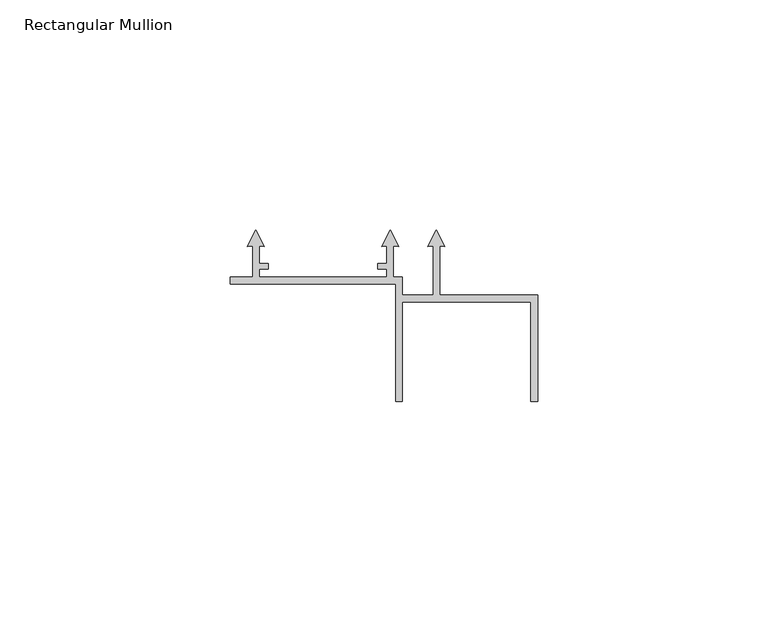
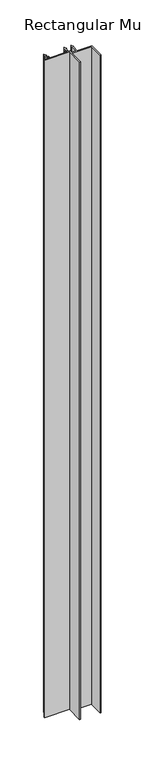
"""IFC4 building model written with IfcOpenShell, lengths in millimetres: member geometry, Rectangular Mullion : Renson_Linarte_LA-E25-05."""

from ifc_helpers import new_model, si_unit, frame, origin, place, context, project, spatial, polyline, outline, extrude, source, transform, mapped, element, save


def rectangular_mullion_48ee93ce(model_context):
    return source(origin(), model_context, "Body", "SweptSolid", [
        extrude(outline(polyline([(0.7500005, -36.2000004), (0.7500005, -34.7000006), (5.5500003, -34.7000006), (5.5500032, -28.0038205), (4.4342643, -28.101435), (6.2500009, -24.5378476), (8.0657374, -28.101435), (6.9500007, -28.0038207), (6.9500007, -31.7000004), (8.9500007, -31.7000004), (8.9500007, -32.9000004), (6.9500007, -32.9000004), (6.9500007, -34.7000006), (34.7000002, -34.7000006), (34.7000002, -32.9000004), (32.7000002, -32.9000004), (32.7000002, -31.7000004), (34.7000002, -31.7000004), (34.7000002, -28.0038207), (33.5842635, -28.101435), (35.4000001, -24.5378476), (37.2157367, -28.101435), (36.0999978, -28.0038205), (36.1000007, -34.7000006), (38.0500005, -34.7000006), (38.0500005, -38.6000002), (44.7000015, -38.6000002), (44.7000015, -28.0038207), (43.5842647, -28.101435), (45.4000013, -24.5378476), (47.2157379, -28.101435), (46.1000001, -28.0038206), (46.1000001, -38.6000002), (67.3500005, -38.6000002), (67.3500005, -61.7), (65.8500005, -61.7), (65.8500005, -40.1000002), (38.0500005, -40.1000002), (38.0500005, -61.7), (36.5500005, -61.7), (36.5500005, -36.2000004), (0.7500005, -36.2000004)])), frame((0.0, 0.0, -1000.0), z_axis=(0.0, 0.0, 1.0), x_axis=(1.0, 0.0, 0.0)), (0.0, 0.0, 1.0), 1000.0),
    ])


if __name__ == "__main__":
    model = new_model("IFC4")
    model_context = context("Model", 3, world=origin())
    ifc_project = project(units=[si_unit("LENGTHUNIT", "METRE", prefix="MILLI")], contexts=[model_context])
    site = spatial("IfcSite", under=ifc_project)
    building = spatial("IfcBuilding", under=site)
    placement = place(None, origin())
    rectangular_mullion_shape = rectangular_mullion_48ee93ce(model_context)
    element("IfcMember", 1, ObjectType="Rectangular Mullion : Renson_Linarte_LA-E25-05", at=placement, inside=building, context=model_context, shape_type="MappedRepresentation", body=[
        mapped(rectangular_mullion_shape, transform((0.0, 0.0, 0.0), x_axis=(1.0, 0.0, 0.0), y_axis=(0.0, 1.0, 0.0), z_axis=(0.0, 0.0, 1.0))),
    ])
    save(model, "model.ifc")
